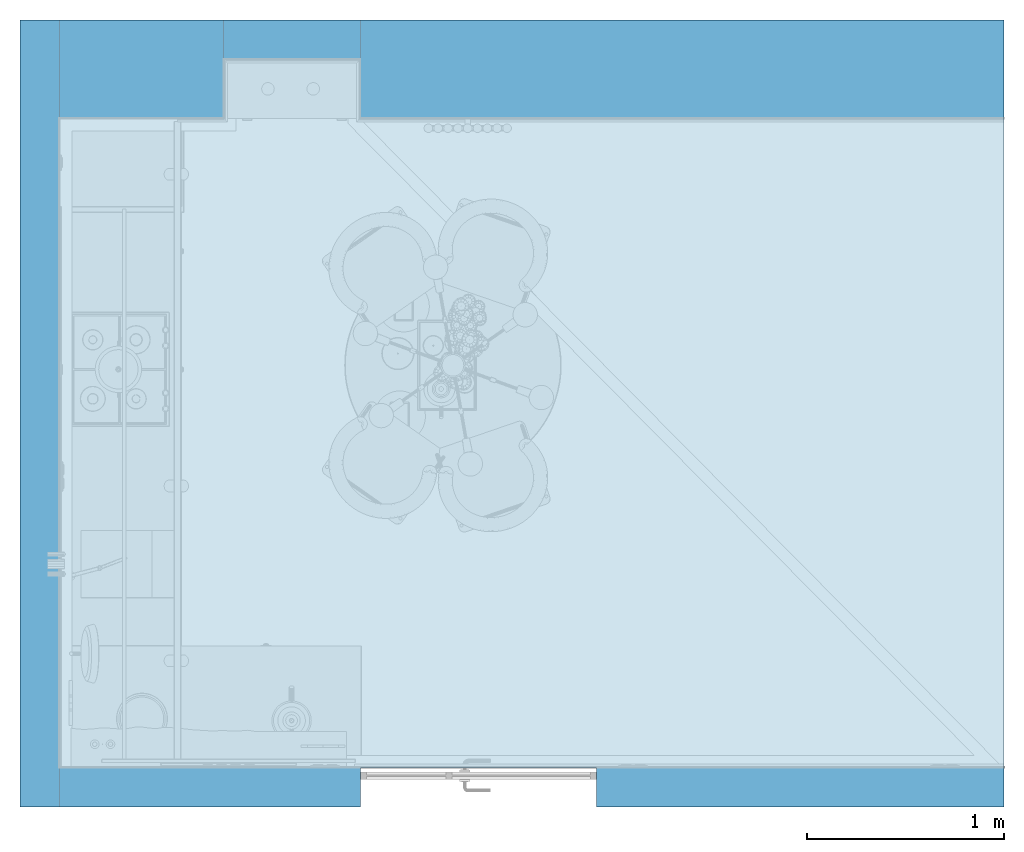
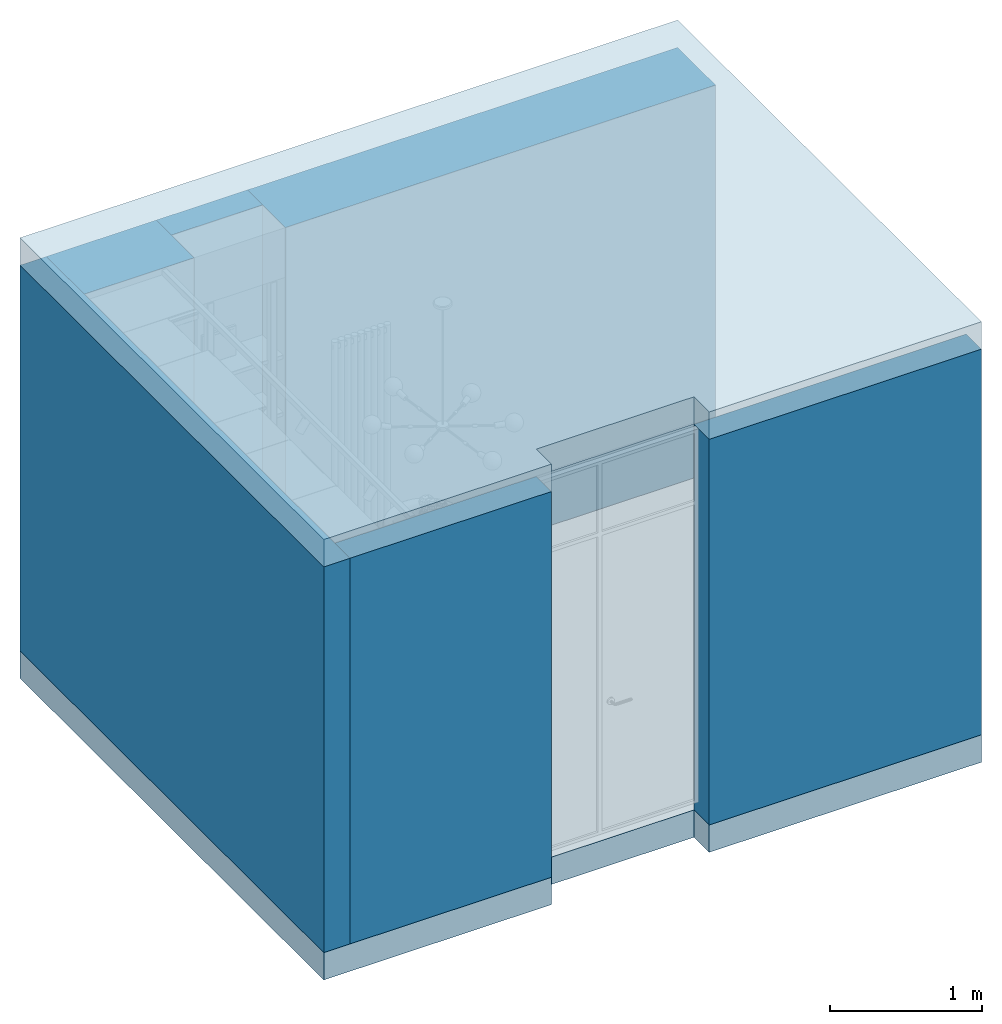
# One storey, part 1 of 11: 6 walls, 2 slabs.
"""IFC4 building model written with IfcOpenShell, lengths in millimetres."""

import ifcopenshell
import ifcopenshell.guid

model = None  # the IFC model being written
_history = None  # IfcOwnerHistory: only IFC2X3 demands one
_inside = {}  # id of a spatial element -> (the spatial element, [elements in it])
_under = {}  # id of a project, library or spatial element -> (it, [spatial elements below it])
_declared = {}  # id of a project -> (the project, [libraries it declares])
_typed = {}  # id of a type object -> (the type object, [elements of that type])
_made_of = {}  # id of a material, layer set ... -> (it, [elements and type objects made of it])


def new_model(schema):
    """Start an empty IFC model of exactly this schema.

    Asked for "IFC4X3", IfcOpenShell would pick the latest addendum, in which some entities
    have other attributes; the version numbers below select the first issue.
    IFC2X3 requires an IfcOwnerHistory on every rooted entity: one is made here for all.
    """
    global model, _history
    if schema == "IFC4X3":
        model = ifcopenshell.file(schema_version=(4, 3, 0, 0))
    else:
        model = ifcopenshell.file(schema=schema)
    _inside.clear()
    _under.clear()
    _declared.clear()
    _typed.clear()
    _made_of.clear()
    _history = None
    if model.schema == "IFC2X3":
        org = make("IfcOrganization", Name="unknown")
        user = make(
            "IfcPersonAndOrganization",
            ThePerson=make("IfcPerson", FamilyName="unknown"),
            TheOrganization=org,
        )
        app = make(
            "IfcApplication",
            ApplicationDeveloper=org,
            Version="unknown",
            ApplicationFullName="unknown",
            ApplicationIdentifier="unknown",
        )
        _history = make(
            "IfcOwnerHistory",
            OwningUser=user,
            OwningApplication=app,
            ChangeAction="ADDED",
            CreationDate=0,
        )
    return model


def make(cls, **values):
    """One entity of the class cls with the attributes given. An attribute that is None is left unset."""
    return model.create_entity(
        cls, **{name: value for name, value in values.items() if value is not None}
    )


def rooted(cls, **values):
    """An entity with a GlobalId (a new one), such as an element, a storey or a relation."""
    return make(cls, GlobalId=ifcopenshell.guid.new(), OwnerHistory=_history, **values)


def si_unit(unit_type, name, prefix=None):
    """IfcSIUnit, for example si_unit("LENGTHUNIT", "METRE", prefix="MILLI")."""
    return make("IfcSIUnit", UnitType=unit_type, Prefix=prefix, Name=name)


def assignment(units):
    """IfcUnitAssignment: the units of a project."""
    return None if units is None else make("IfcUnitAssignment", Units=units)


def point(xyz):
    """IfcCartesianPoint."""
    return None if xyz is None else make("IfcCartesianPoint", Coordinates=xyz)


def direction(xyz):
    """IfcDirection."""
    return None if xyz is None else make("IfcDirection", DirectionRatios=xyz)


def frame(location, z_axis=None, x_axis=None):
    """IfcAxis2Placement3D, a coordinate frame: its origin and axes. An axis left out is left unset."""
    return make(
        "IfcAxis2Placement3D",
        Location=point(location),
        Axis=direction(z_axis),
        RefDirection=direction(x_axis),
    )


def origin():
    """The frame at (0, 0, 0) with its axes left unset."""
    return frame((0.0, 0.0, 0.0))


def origin_with_axes():
    """The frame at (0, 0, 0) with the z axis (0, 0, 1) and the x axis (1, 0, 0) written out."""
    return frame((0.0, 0.0, 0.0), z_axis=(0.0, 0.0, 1.0), x_axis=(1.0, 0.0, 0.0))


def place(relative_to, where):
    """IfcLocalPlacement: puts the frame where relative to a parent placement (None: the world)."""
    return make(
        "IfcLocalPlacement", PlacementRelTo=relative_to, RelativePlacement=where
    )


def context(
    kind, dimensions, precision=None, world=None, true_north=None, identifier=None
):
    """IfcGeometricRepresentationContext, for example the 3D "Model" context."""
    return make(
        "IfcGeometricRepresentationContext",
        ContextIdentifier=identifier,
        ContextType=kind,
        CoordinateSpaceDimension=dimensions,
        Precision=precision,
        WorldCoordinateSystem=world,
        TrueNorth=true_north,
    )


def subcontext(parent, identifier, kind, view, scale=None):
    """IfcGeometricRepresentationSubContext, for example "Body" below "Model"."""
    return make(
        "IfcGeometricRepresentationSubContext",
        ContextIdentifier=identifier,
        ContextType=kind,
        ParentContext=parent,
        TargetScale=scale,
        TargetView=view,
    )


def project(units=None, contexts=None):
    """IfcProject with its units and contexts."""
    return rooted(
        "IfcProject",
        Name="project",
        RepresentationContexts=contexts,
        UnitsInContext=assignment(units),
    )


def spatial(cls, under=None, at=None, **own):
    """A site, building, storey or space (cls), placed at a placement, below another one or the project."""
    s = rooted(cls, ObjectPlacement=at, **own)
    if under is not None:
        _under.setdefault(under.id(), (under, []))[1].append(s)
    return s


def polyline(points):
    """IfcPolyline through the points."""
    return make("IfcPolyline", Points=[point(p) for p in points])


def outline(outer, holes=None, kind="AREA"):
    """IfcArbitraryClosedProfileDef: a profile drawn as a closed curve; with holes, ...WithVoids."""
    if holes is None:
        return make("IfcArbitraryClosedProfileDef", ProfileType=kind, OuterCurve=outer)
    return make(
        "IfcArbitraryProfileDefWithVoids",
        ProfileType=kind,
        OuterCurve=outer,
        InnerCurves=holes,
    )


def extrude(swept, where, along, depth):
    """IfcExtrudedAreaSolid: the profile swept, set in the frame where, extruded along a direction by depth."""
    return make(
        "IfcExtrudedAreaSolid",
        SweptArea=swept,
        Position=where,
        ExtrudedDirection=direction(along),
        Depth=depth,
    )


def shape(context_of_items, identifier, shape_type, items):
    """IfcShapeRepresentation: the items that make up one representation, for example the "Body"."""
    return make(
        "IfcShapeRepresentation",
        ContextOfItems=context_of_items,
        RepresentationIdentifier=identifier,
        RepresentationType=shape_type,
        Items=items,
    )


def material(Name=None, Category=None):
    """IfcMaterial."""
    return make("IfcMaterial", Name=Name, Category=Category)


def made_of(thing, what):
    """Note that an element or type object is made of a material, layer set ...; save() writes the relation."""
    if what is not None:
        _made_of.setdefault(what.id(), (what, []))[1].append(thing)
    return thing


def element(
    cls,
    number,
    at=None,
    inside=None,
    cuts=None,
    type_object=None,
    material=None,
    context=None,
    identifier="Body",
    shape_type=None,
    held_by="IfcProductDefinitionShape",
    body=None,
    shapes=None,
    **own,
):
    """One element of the class cls, such as IfcWall. Its Tag is "e" and its number.

    at: its placement. inside: the storey or other place that contains it. cuts: it is an
    opening in that element (IfcRelVoidsElement). A single representation is given by context,
    identifier, shape_type and body (its items); several are given by shapes. held_by: the class
    of the entity that holds the representations. save() writes the other relations.
    """
    e = rooted(cls, Tag="e%d" % number, ObjectPlacement=at, **own)
    if body is not None:
        shapes = [shape(context, identifier, shape_type, body)]
    if shapes is not None:
        e.Representation = make(held_by, Representations=shapes)
    if inside is not None:
        _inside.setdefault(inside.id(), (inside, []))[1].append(e)
    if cuts is not None:
        rooted(
            "IfcRelVoidsElement", RelatingBuildingElement=cuts, RelatedOpeningElement=e
        )
    if type_object is not None:
        _typed.setdefault(type_object.id(), (type_object, []))[1].append(e)
    return made_of(e, material)


def aggregate(whole, parts):
    """IfcRelAggregates: a whole, such as a stair, and the parts it consists of."""
    return rooted("IfcRelAggregates", RelatingObject=whole, RelatedObjects=parts)


def save(model, path):
    """Write the relations noted so far, then the file.

    IfcRelAggregates (storeys below a building ...), IfcRelContainedInSpatialStructure (elements
    in a storey), IfcRelDefinesByType, IfcRelAssociatesMaterial and IfcRelDeclares: one each for
    every whole, place, type object, material and project.
    """
    for whole, parts in _under.values():
        aggregate(whole, parts)
    for where, things in _inside.values():
        rooted(
            "IfcRelContainedInSpatialStructure",
            RelatedElements=things,
            RelatingStructure=where,
        )
    for kind, things in _typed.values():
        rooted("IfcRelDefinesByType", RelatedObjects=things, RelatingType=kind)
    for what, things in _made_of.values():
        rooted("IfcRelAssociatesMaterial", RelatedObjects=things, RelatingMaterial=what)
    for by, libraries in _declared.values():
        rooted("IfcRelDeclares", RelatingContext=by, RelatedDefinitions=libraries)
    model.write(path)


model = new_model("IFC4")

# Units and contexts
model_context = context("Model", 3, precision=0.01, world=origin_with_axes())
body_context = subcontext(model_context, "Body", "Model", "MODEL_VIEW")
ifc_project = project(units=[si_unit("LENGTHUNIT", "METRE", prefix="MILLI"), si_unit("AREAUNIT", "SQUARE_METRE"), si_unit("VOLUMEUNIT", "CUBIC_METRE"), si_unit("PLANEANGLEUNIT", "RADIAN")], contexts=[model_context])

# Site, building, storey
site_placement = place(None, origin_with_axes())
site = spatial("IfcSite", under=ifc_project, at=site_placement, Name="Участок", CompositionType="ELEMENT")
building_placement = place(site_placement, origin_with_axes())
building = spatial("IfcBuilding", under=site, at=building_placement, Name="Жилой дом", CompositionType="ELEMENT")
storey_placement = place(building_placement, origin_with_axes())
storey = spatial("IfcBuildingStorey", under=building, at=storey_placement, Name="Квартира ±0,000", CompositionType="ELEMENT", Elevation=0.0)

# Slabs
ifc_material_1 = material(Name="Железобетон (плиты, существующие)")
for number, where, name in (
    (1, (-200.0, -200.0, -320.0), "Плита перекрытия (под квартирой)"),
    (2, (-200.0, -200.0, 3000.0), "Плита перекрытия (над квартирой)"),
):
    element("IfcSlab", number, at=place(storey_placement, frame(where)), inside=storey, material=ifc_material_1, Name=name, PredefinedType="FLOOR", context=body_context, shape_type="SweptSolid", body=[
        extrude(outline(polyline([(200.0, 200.0), (200.0, 3500.0), (1035.0, 3500.0), (1035.0, 3800.0), (1730.0, 3800.0), (1730.0, 3500.0), (5000.0, 3500.0), (5000.0, 200.0), (200.0, 200.0)])), origin(), (0.0, 0.0, 1.0), 220.0),
        extrude(outline(polyline([(0.0, 0.0), (200.0, 0.0), (200.0, 4000.0), (0.0, 4000.0), (0.0, 0.0)])), origin(), (0.0, 0.0, 1.0), 220.0),
        extrude(outline(polyline([(200.0, 0.0), (1730.0, 0.0), (1730.0, 200.0), (200.0, 200.0), (200.0, 0.0)])), origin(), (0.0, 0.0, 1.0), 220.0),
        extrude(outline(polyline([(2930.0, 0.0), (5000.0, 0.0), (5000.0, 200.0), (2930.0, 200.0), (2930.0, 0.0)])), origin(), (0.0, 0.0, 1.0), 220.0),
        extrude(outline(polyline([(200.0, 3500.0), (1035.0, 3500.0), (1035.0, 4000.0), (200.0, 4000.0), (200.0, 3500.0)])), origin(), (0.0, 0.0, 1.0), 220.0),
        extrude(outline(polyline([(1035.0, 3800.0), (1730.0, 3800.0), (1730.0, 4000.0), (1035.0, 4000.0), (1035.0, 3800.0)])), origin(), (0.0, 0.0, 1.0), 220.0),
        extrude(outline(polyline([(1730.0, 3500.0), (5000.0, 3500.0), (5000.0, 4000.0), (1730.0, 4000.0), (1730.0, 3500.0)])), origin(), (0.0, 0.0, 1.0), 220.0),
    ])

# Walls
ifc_material_2 = material(Name="Штукатурка (стены, сущ.)")
wall_1_placement = place(storey_placement, frame((-200.0, -200.0, -100.0)))
element("IfcWall", 3, at=wall_1_placement, inside=storey, material=ifc_material_2, Name="Стена 200 мм — перегородка (сущ.)", PredefinedType="SOLIDWALL", context=body_context, shape_type="SweptSolid", body=[
    extrude(outline(polyline([(0.0, 0.0), (200.0, 0.0), (200.0, 4000.0), (0.0, 4000.0), (0.0, 0.0)])), origin(), (0.0, 0.0, 1.0), 3100.0),
])
wall_2_placement = place(storey_placement, frame((0.0, -200.0, -100.0)))
element("IfcWall", 4, at=wall_2_placement, inside=storey, material=ifc_material_2, Name="Стена 200 мм — перегородка (сущ.)", PredefinedType="SOLIDWALL", context=body_context, shape_type="SweptSolid", body=[
    extrude(outline(polyline([(0.0, 0.0), (1530.0, 0.0), (1530.0, 200.0), (0.0, 200.0), (0.0, 0.0)])), origin(), (0.0, 0.0, 1.0), 3100.0),
])
wall_3_placement = place(storey_placement, frame((2730.0, -200.0, -100.0)))
element("IfcWall", 5, at=wall_3_placement, inside=storey, material=ifc_material_2, Name="Стена 200 мм — перегородка (сущ.)", PredefinedType="SOLIDWALL", context=body_context, shape_type="SweptSolid", body=[
    extrude(outline(polyline([(0.0, 0.0), (2070.0, 0.0), (2070.0, 200.0), (0.0, 200.0), (0.0, 0.0)])), origin(), (0.0, 0.0, 1.0), 3100.0),
])
wall_4_placement = place(storey_placement, frame((0.0, 3300.0, -100.0)))
element("IfcWall", 6, at=wall_4_placement, inside=storey, material=ifc_material_2, Name="Стена 500 мм — перегородка (сущ.)", PredefinedType="SOLIDWALL", context=body_context, shape_type="SweptSolid", body=[
    extrude(outline(polyline([(0.0, 0.0), (835.0, 0.0), (835.0, 500.0), (0.0, 500.0), (0.0, 0.0)])), origin(), (0.0, 0.0, 1.0), 3100.0),
])
wall_5_placement = place(storey_placement, frame((835.0, 3600.0, -100.0)))
element("IfcWall", 7, at=wall_5_placement, inside=storey, material=ifc_material_2, Name="Стена 200 мм — перегородка (сущ.)", PredefinedType="SOLIDWALL", context=body_context, shape_type="SweptSolid", body=[
    extrude(outline(polyline([(0.0, 0.0), (695.0, 0.0), (695.0, 200.0), (0.0, 200.0), (0.0, 0.0)])), origin(), (0.0, 0.0, 1.0), 3100.0),
])
wall_6_placement = place(storey_placement, frame((1530.0, 3300.0, -100.0)))
element("IfcWall", 8, at=wall_6_placement, inside=storey, material=ifc_material_2, Name="Стена 500 мм — перегородка (сущ.)", PredefinedType="SOLIDWALL", context=body_context, shape_type="SweptSolid", body=[
    extrude(outline(polyline([(0.0, 0.0), (3270.0, 0.0), (3270.0, 500.0), (0.0, 500.0), (0.0, 0.0)])), origin(), (0.0, 0.0, 1.0), 3100.0),
])

save(model, "model.ifc")
